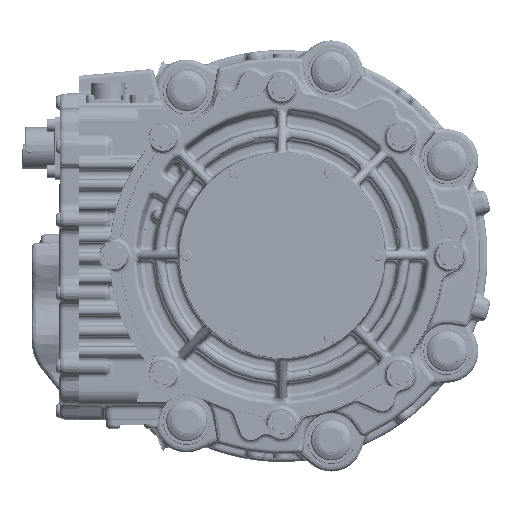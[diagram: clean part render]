
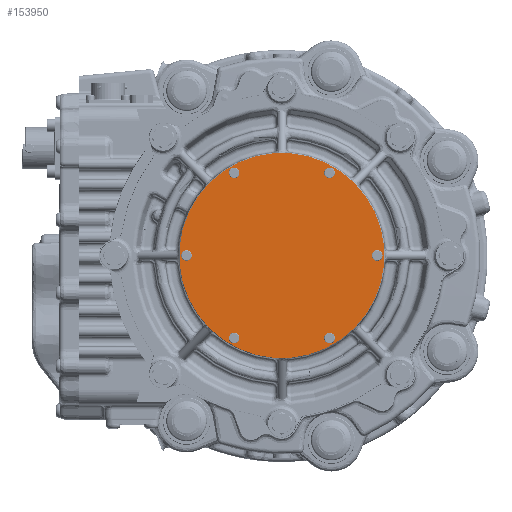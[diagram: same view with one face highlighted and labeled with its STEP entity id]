
A CAD part, top view. The second image highlights one B-rep face of the part: STEP entity #153950.
In plain terms, the highlighted planar face has unit normal (0, 0, 1).
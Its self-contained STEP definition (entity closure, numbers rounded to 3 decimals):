
#33653=FACE_BOUND('',#44006,.T.);
#33654=FACE_BOUND('',#44007,.T.);
#33655=FACE_BOUND('',#44008,.T.);
#33656=FACE_BOUND('',#44009,.T.);
#33657=FACE_BOUND('',#44010,.T.);
#33658=FACE_BOUND('',#44011,.T.);
#35686=FACE_OUTER_BOUND('',#44005,.T.);
#44005=EDGE_LOOP('',(#110379));
#44006=EDGE_LOOP('',(#110380));
#44007=EDGE_LOOP('',(#110381));
#44008=EDGE_LOOP('',(#110382));
#44009=EDGE_LOOP('',(#110383));
#44010=EDGE_LOOP('',(#110384));
#44011=EDGE_LOOP('',(#110385));
#50962=CIRCLE('',#162510,67.25);
#50963=CIRCLE('',#162511,3.5);
#50964=CIRCLE('',#162512,3.5);
#50965=CIRCLE('',#162513,3.5);
#50966=CIRCLE('',#162514,3.5);
#50967=CIRCLE('',#162515,3.5);
#50968=CIRCLE('',#162516,3.5);
#61470=VERTEX_POINT('',#228912);
#61471=VERTEX_POINT('',#228914);
#61472=VERTEX_POINT('',#228916);
#61473=VERTEX_POINT('',#228918);
#61474=VERTEX_POINT('',#228920);
#61475=VERTEX_POINT('',#228922);
#61476=VERTEX_POINT('',#228924);
#80704=EDGE_CURVE('',#61470,#61470,#50962,.T.);
#80705=EDGE_CURVE('',#61471,#61471,#50963,.T.);
#80706=EDGE_CURVE('',#61472,#61472,#50964,.T.);
#80707=EDGE_CURVE('',#61473,#61473,#50965,.T.);
#80708=EDGE_CURVE('',#61474,#61474,#50966,.T.);
#80709=EDGE_CURVE('',#61475,#61475,#50967,.T.);
#80710=EDGE_CURVE('',#61476,#61476,#50968,.T.);
#110379=ORIENTED_EDGE('',*,*,#80704,.F.);
#110380=ORIENTED_EDGE('',*,*,#80705,.T.);
#110381=ORIENTED_EDGE('',*,*,#80706,.T.);
#110382=ORIENTED_EDGE('',*,*,#80707,.T.);
#110383=ORIENTED_EDGE('',*,*,#80708,.T.);
#110384=ORIENTED_EDGE('',*,*,#80709,.T.);
#110385=ORIENTED_EDGE('',*,*,#80710,.T.);
#143615=PLANE('',#162509);
#153950=ADVANCED_FACE('',(#35686,#33653,#33654,#33655,#33656,#33657,#33658),
#143615,.T.);
#162509=AXIS2_PLACEMENT_3D('',#228911,#181314,#181315);
#162510=AXIS2_PLACEMENT_3D('',#228913,#181316,#181317);
#162511=AXIS2_PLACEMENT_3D('',#228915,#181318,#181319);
#162512=AXIS2_PLACEMENT_3D('',#228917,#181320,#181321);
#162513=AXIS2_PLACEMENT_3D('',#228919,#181322,#181323);
#162514=AXIS2_PLACEMENT_3D('',#228921,#181324,#181325);
#162515=AXIS2_PLACEMENT_3D('',#228923,#181326,#181327);
#162516=AXIS2_PLACEMENT_3D('',#228925,#181328,#181329);
#181314=DIRECTION('center_axis',(0.,0.,
1.));
#181315=DIRECTION('ref_axis',(0.996,0.087,0.));
#181316=DIRECTION('center_axis',(0.,0.,
-1.));
#181317=DIRECTION('ref_axis',(0.087,-0.996,0.));
#181318=DIRECTION('center_axis',(0.,0.,
-1.));
#181319=DIRECTION('ref_axis',(-0.839,-0.545,0.));
#181320=DIRECTION('center_axis',(0.,0.,
-1.));
#181321=DIRECTION('ref_axis',(-0.891,0.454,0.));
#181322=DIRECTION('center_axis',(0.,0.,
-1.));
#181323=DIRECTION('ref_axis',(-0.052,0.999,0.));
#181324=DIRECTION('center_axis',(0.,0.,
-1.));
#181325=DIRECTION('ref_axis',(0.839,0.545,0.));
#181326=DIRECTION('center_axis',(0.,0.,
-1.));
#181327=DIRECTION('ref_axis',(0.891,-0.454,0.));
#181328=DIRECTION('center_axis',(0.,0.,
-1.));
#181329=DIRECTION('ref_axis',(0.052,-0.999,0.));
#228911=CARTESIAN_POINT('Origin',(-5.883,67.243,166.05));
#228912=CARTESIAN_POINT('',(-5.861,66.994,166.05));
#228913=CARTESIAN_POINT('Origin',(0.,0.,
166.05));
#228914=CARTESIAN_POINT('',(-59.565,1.906,166.05));
#228915=CARTESIAN_POINT('Origin',(-62.5,0.,
166.05));
#228916=CARTESIAN_POINT('',(-28.132,52.538,166.05));
#228917=CARTESIAN_POINT('Origin',(-31.25,54.127,166.05));
#228918=CARTESIAN_POINT('',(31.433,50.631,166.05));
#228919=CARTESIAN_POINT('Origin',(31.25,54.127,166.05));
#228920=CARTESIAN_POINT('',(59.565,-1.906,166.05));
#228921=CARTESIAN_POINT('Origin',(62.5,0.,
166.05));
#228922=CARTESIAN_POINT('',(28.132,-52.538,166.05));
#228923=CARTESIAN_POINT('Origin',(31.25,-54.127,166.05));
#228924=CARTESIAN_POINT('',(-31.433,-50.631,166.05));
#228925=CARTESIAN_POINT('Origin',(-31.25,-54.127,166.05));
